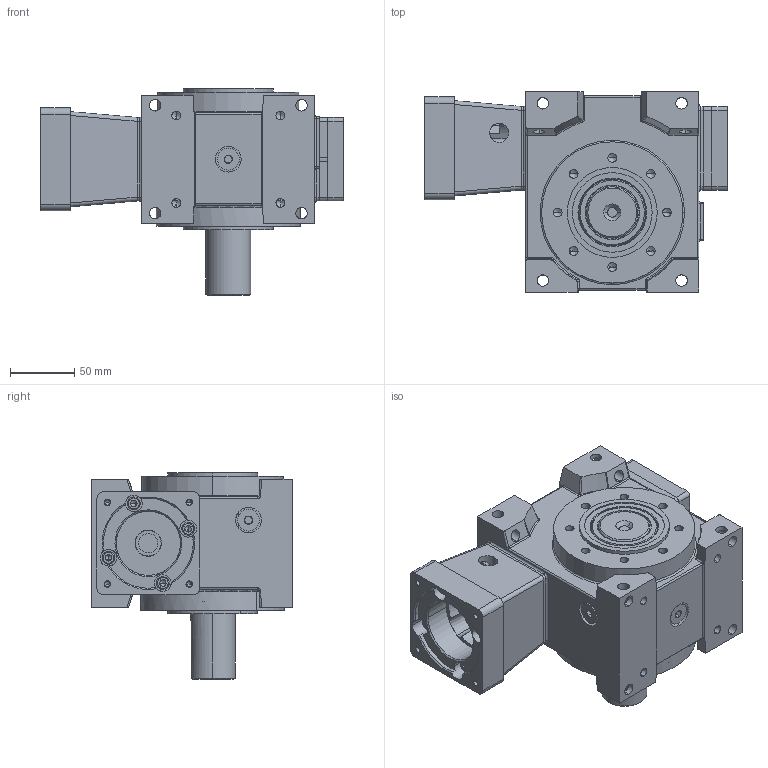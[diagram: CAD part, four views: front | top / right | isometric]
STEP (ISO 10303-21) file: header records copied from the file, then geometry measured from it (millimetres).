
FILE_DESCRIPTION (( 'STEP AP203' ), '1' );
FILE_NAME ('EDB50-60-P1 BM F90 70.STEP', '2022-02-14T10:41:30', ( '' ), ( '' ), 'SwSTEP 2.0', 'SolidWorks 2021', '' );
FILE_SCHEMA (( 'CONFIG_CONTROL_DESIGN' ));
Products named in the file (1): EDB50-60-P1 BM F90 70
Bounding box: 235.5 x 156 x 161 mm (x, y, z)
Volume: 2329371.5 mm3; surface area: 311211 mm2
Topology: 33 solids, 48 shells, 2033 faces, 5545 edges, 3446 vertices
Faces by surface type: plane 705, cylinder 566, cone 375, torus 293, bspline 59, sphere 35
Entity records: 70802 total; most frequent: CARTESIAN_POINT 20980, ORIENTED_EDGE 10686, DIRECTION 10291, EDGE_CURVE 5343, AXIS2_PLACEMENT_3D 4213, VERTEX_POINT 3382, EDGE_LOOP 2321, CIRCLE 2238
